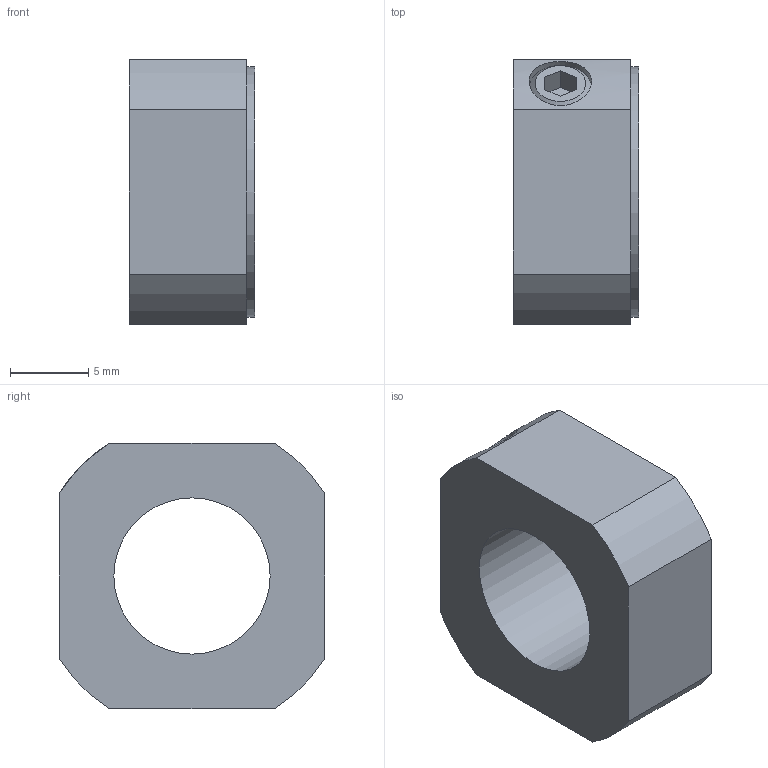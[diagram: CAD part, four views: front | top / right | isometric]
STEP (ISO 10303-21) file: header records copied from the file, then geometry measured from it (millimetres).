
FILE_DESCRIPTION((''),'2;1');
FILE_NAME('D:\製品 (図面)\カタログ用3D\ネジ関連\STEP形式\LNM\LNM10×1.stp','2010-06-02T14:35:42',('Tsuchiya'),(''),'Autodesk Inventor 10','Autodesk Inventor 10','');
FILE_SCHEMA(('AUTOMOTIVE_DESIGN { 1 0 10303 214 1 1 1 1 }'));
Length unit declared in the file: millimetre
Products named in the file (1): LNM10×1
Bounding box: 8 x 17 x 17 mm (x, y, z)
Volume: 1499.6 mm3; surface area: 1134.5 mm2
Topology: 1 solids, 1 shells, 23 faces, 55 edges, 37 vertices
Faces by surface type: plane 15, cylinder 6, cone 1, bspline 1
Full cylindrical faces by diameter (mm): 4 x1, 16 x1
Entity records: 738 total; most frequent: CARTESIAN_POINT 187, DIRECTION 108, ORIENTED_EDGE 100, EDGE_CURVE 50, AXIS2_PLACEMENT_3D 37, VERTEX_POINT 36, VECTOR 34, LINE 34
